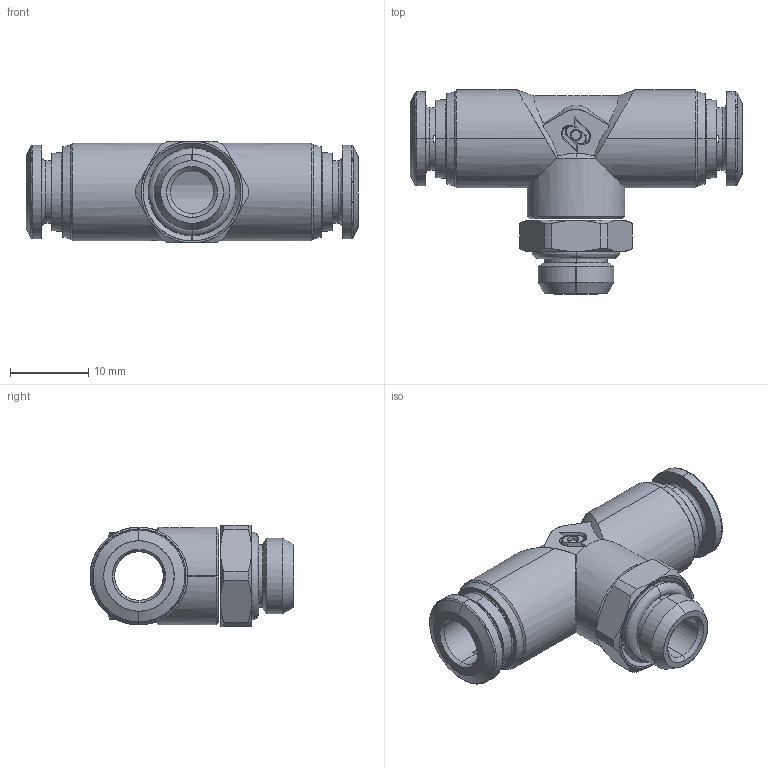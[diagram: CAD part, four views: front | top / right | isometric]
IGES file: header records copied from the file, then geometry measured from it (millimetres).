
Start section: SolidWorks IGES file using analytic representation for surfaces
Global section: file name: C:\Users\cad06\Desktop\Nuova cartella\40216V0008A.IGS; native system: SolidWorks 2016; preprocessor: SolidWorks 2016; author: cad06; date: 160519.092410; units: millimetre
Bounding box: 42.4 x 26.05 x 13 mm (x, y, z)
Surface area: 3546.6 mm2 (no closed solid volume)
Topology: 0 solids, 0 shells, 184 faces, 2322 edges, 2322 vertices
Faces by surface type: revolution 108, bspline 76
